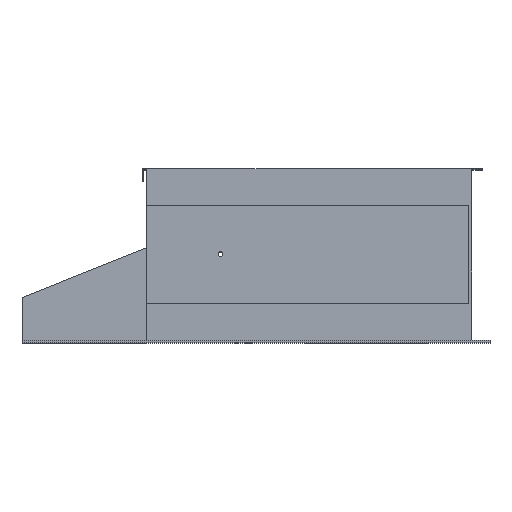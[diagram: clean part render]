
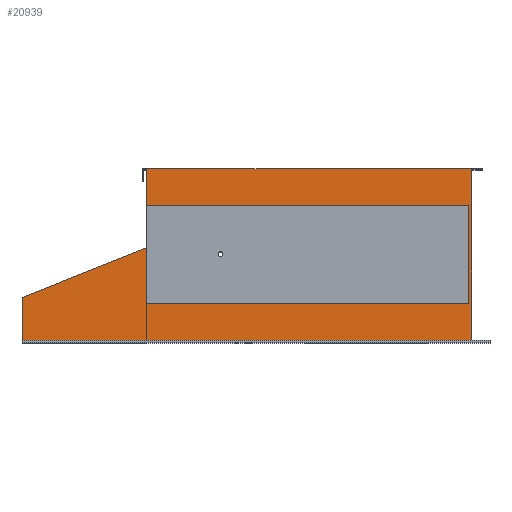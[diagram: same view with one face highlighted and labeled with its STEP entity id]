
A CAD part, top view. The second image highlights one B-rep face of the part: STEP entity #20939.
In plain terms, the highlighted planar face has unit normal (0, 0, 1).
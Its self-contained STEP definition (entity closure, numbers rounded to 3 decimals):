
#794 = LINE ( 'NONE', #46504, #36839 ) ;
#1184 = VERTEX_POINT ( 'NONE', #44992 ) ;
#1379 = VERTEX_POINT ( 'NONE', #24587 ) ;
#1419 = LINE ( 'NONE', #5107, #13570 ) ;
#1443 = CARTESIAN_POINT ( 'NONE',  ( 253., 79., 293. ) ) ;
#1843 = VECTOR ( 'NONE', #52644, 1000. ) ;
#1952 = VERTEX_POINT ( 'NONE', #38186 ) ;
#2223 = VECTOR ( 'NONE', #3060, 1000. ) ;
#2451 = CARTESIAN_POINT ( 'NONE',  ( 907., 279., 293. ) ) ;
#3060 = DIRECTION ( 'NONE',  ( 0., -1., 0. ) ) ;
#4261 = ORIENTED_EDGE ( 'NONE', *, *, #45153, .F. ) ;
#4314 = DIRECTION ( 'NONE',  ( 1., 0., 0. ) ) ;
#4740 = VERTEX_POINT ( 'NONE', #16648 ) ;
#5107 = CARTESIAN_POINT ( 'NONE',  ( 907., 79., 293. ) ) ;
#5360 = VERTEX_POINT ( 'NONE', #40984 ) ;
#5380 = CARTESIAN_POINT ( 'NONE',  ( 245., 353.5, 293. ) ) ;
#5392 = LINE ( 'NONE', #57517, #42651 ) ;
#5831 = DIRECTION ( 'NONE',  ( 1., 0., 0. ) ) ;
#6129 = EDGE_CURVE ( 'NONE', #1952, #50415, #10510, .T. ) ;
#6155 = EDGE_CURVE ( 'NONE', #1379, #34314, #21170, .T. ) ;
#7627 = VECTOR ( 'NONE', #48983, 1000. ) ;
#8324 = EDGE_CURVE ( 'NONE', #14761, #5360, #46264, .T. ) ;
#8522 = ORIENTED_EDGE ( 'NONE', *, *, #33453, .T. ) ;
#8892 = LINE ( 'NONE', #42566, #31394 ) ;
#9084 = VECTOR ( 'NONE', #12945, 1000. ) ;
#9164 = CARTESIAN_POINT ( 'NONE',  ( 935., 353.5, 293. ) ) ;
#9474 = LINE ( 'NONE', #50042, #36211 ) ;
#10430 = ORIENTED_EDGE ( 'NONE', *, *, #15248, .F. ) ;
#10510 = LINE ( 'NONE', #30768, #9084 ) ;
#11028 = VECTOR ( 'NONE', #28625, 1000. ) ;
#11845 = EDGE_CURVE ( 'NONE', #40019, #26633, #34894, .T. ) ;
#12088 = CARTESIAN_POINT ( 'NONE',  ( 935., 0., 293. ) ) ;
#12945 = DIRECTION ( 'NONE',  ( 0., 1., 0. ) ) ;
#13570 = VECTOR ( 'NONE', #4314, 1000. ) ;
#14074 = ORIENTED_EDGE ( 'NONE', *, *, #48839, .F. ) ;
#14400 = LINE ( 'NONE', #12088, #2223 ) ;
#14599 = ORIENTED_EDGE ( 'NONE', *, *, #54412, .F. ) ;
#14761 = VERTEX_POINT ( 'NONE', #39433 ) ;
#14820 = CARTESIAN_POINT ( 'NONE',  ( 913., 351.791, 293. ) ) ;
#15095 = ORIENTED_EDGE ( 'NONE', *, *, #29467, .T. ) ;
#15248 = EDGE_CURVE ( 'NONE', #55766, #26633, #14400, .T. ) ;
#15379 = ORIENTED_EDGE ( 'NONE', *, *, #22660, .T. ) ;
#16194 = AXIS2_PLACEMENT_3D ( 'NONE', #52864, #26375, #57181 ) ;
#16648 = CARTESIAN_POINT ( 'NONE',  ( 913., 5., 293. ) ) ;
#17391 = CARTESIAN_POINT ( 'NONE',  ( 913., 0., 293. ) ) ;
#18463 = CARTESIAN_POINT ( 'NONE',  ( 0., 92., 293. ) ) ;
#18552 = ORIENTED_EDGE ( 'NONE', *, *, #28933, .F. ) ;
#19469 = EDGE_CURVE ( 'NONE', #54797, #1184, #55170, .T. ) ;
#20237 = ORIENTED_EDGE ( 'NONE', *, *, #48069, .F. ) ;
#20401 = DIRECTION ( 'NONE',  ( -1., 0., 0. ) ) ;
#20831 = DIRECTION ( 'NONE',  ( -1., 0., 0. ) ) ;
#20939 = ADVANCED_FACE ( 'NONE', ( #35853 ), #21925, .T. ) ;
#21170 = LINE ( 'NONE', #35697, #7627 ) ;
#21317 = ORIENTED_EDGE ( 'NONE', *, *, #6129, .F. ) ;
#21925 = PLANE ( 'NONE',  #16194 ) ;
#22660 = EDGE_CURVE ( 'NONE', #34314, #30072, #27379, .T. ) ;
#24164 = CARTESIAN_POINT ( 'NONE',  ( 0., 351.791, 293. ) ) ;
#24396 = VECTOR ( 'NONE', #39270, 1000. ) ;
#24587 = CARTESIAN_POINT ( 'NONE',  ( 253., 193.2, 293. ) ) ;
#26375 = DIRECTION ( 'NONE',  ( 0., 0., 1. ) ) ;
#26633 = VERTEX_POINT ( 'NONE', #33820 ) ;
#26706 = DIRECTION ( 'NONE',  ( 0., -1., 0. ) ) ;
#27379 = LINE ( 'NONE', #48243, #1843 ) ;
#27569 = DIRECTION ( 'NONE',  ( 0., -1., 0. ) ) ;
#28367 = CARTESIAN_POINT ( 'NONE',  ( 0., 5., 293. ) ) ;
#28570 = LINE ( 'NONE', #17391, #24396 ) ;
#28625 = DIRECTION ( 'NONE',  ( 1., 0., 0. ) ) ;
#28933 = EDGE_CURVE ( 'NONE', #40019, #4740, #28570, .T. ) ;
#29233 = DIRECTION ( 'NONE',  ( 0., 1., 0. ) ) ;
#29406 = CARTESIAN_POINT ( 'NONE',  ( 0., 353.5, 293. ) ) ;
#29467 = EDGE_CURVE ( 'NONE', #5360, #46893, #5392, .T. ) ;
#30072 = VERTEX_POINT ( 'NONE', #52759 ) ;
#30768 = CARTESIAN_POINT ( 'NONE',  ( 245., 0., 293. ) ) ;
#30868 = DIRECTION ( 'NONE',  ( 1., 0., 0. ) ) ;
#31394 = VECTOR ( 'NONE', #20401, 1000. ) ;
#31886 = VERTEX_POINT ( 'NONE', #1443 ) ;
#32494 = CARTESIAN_POINT ( 'NONE',  ( 907., 79., 293. ) ) ;
#32689 = DIRECTION ( 'NONE',  ( 0., 1., 0. ) ) ;
#33177 = ORIENTED_EDGE ( 'NONE', *, *, #6155, .T. ) ;
#33453 = EDGE_CURVE ( 'NONE', #30072, #4740, #44513, .T. ) ;
#33820 = CARTESIAN_POINT ( 'NONE',  ( 935., 351.791, 293. ) ) ;
#33904 = DIRECTION ( 'NONE',  ( 1., 0., 0. ) ) ;
#34314 = VERTEX_POINT ( 'NONE', #18463 ) ;
#34894 = LINE ( 'NONE', #24164, #11028 ) ;
#35697 = CARTESIAN_POINT ( 'NONE',  ( -31.724, 79.31, 293. ) ) ;
#35853 = FACE_OUTER_BOUND ( 'NONE', #53315, .T. ) ;
#35878 = ORIENTED_EDGE ( 'NONE', *, *, #11845, .T. ) ;
#36211 = VECTOR ( 'NONE', #27569, 1000. ) ;
#36839 = VECTOR ( 'NONE', #29233, 1000. ) ;
#36973 = CARTESIAN_POINT ( 'NONE',  ( 253., 279., 293. ) ) ;
#37763 = VECTOR ( 'NONE', #20831, 1000. ) ;
#37848 = VECTOR ( 'NONE', #33904, 1000. ) ;
#37867 = ORIENTED_EDGE ( 'NONE', *, *, #51325, .F. ) ;
#38186 = CARTESIAN_POINT ( 'NONE',  ( 245., 328.5, 293. ) ) ;
#38747 = CARTESIAN_POINT ( 'NONE',  ( 907., 79., 293. ) ) ;
#39270 = DIRECTION ( 'NONE',  ( 0., -1., 0. ) ) ;
#39433 = CARTESIAN_POINT ( 'NONE',  ( 246.5, 351.791, 293. ) ) ;
#40019 = VERTEX_POINT ( 'NONE', #14820 ) ;
#40984 = CARTESIAN_POINT ( 'NONE',  ( 253., 351.791, 293. ) ) ;
#42566 = CARTESIAN_POINT ( 'NONE',  ( 0., 328.5, 293. ) ) ;
#42651 = VECTOR ( 'NONE', #26706, 1000. ) ;
#43519 = VECTOR ( 'NONE', #32689, 1000. ) ;
#44513 = LINE ( 'NONE', #28367, #54787 ) ;
#44880 = VECTOR ( 'NONE', #30868, 1000. ) ;
#44992 = CARTESIAN_POINT ( 'NONE',  ( 907., 279., 293. ) ) ;
#45153 = EDGE_CURVE ( 'NONE', #50415, #55766, #49557, .T. ) ;
#46264 = LINE ( 'NONE', #52714, #44880 ) ;
#46504 = CARTESIAN_POINT ( 'NONE',  ( 246.5, 0., 293. ) ) ;
#46893 = VERTEX_POINT ( 'NONE', #36973 ) ;
#47276 = VERTEX_POINT ( 'NONE', #57909 ) ;
#48069 = EDGE_CURVE ( 'NONE', #1184, #46893, #49466, .T. ) ;
#48243 = CARTESIAN_POINT ( 'NONE',  ( 0., 0., 293. ) ) ;
#48839 = EDGE_CURVE ( 'NONE', #47276, #1952, #8892, .T. ) ;
#48931 = ORIENTED_EDGE ( 'NONE', *, *, #8324, .T. ) ;
#48983 = DIRECTION ( 'NONE',  ( -0.928, -0.371, 0. ) ) ;
#49466 = LINE ( 'NONE', #2451, #37763 ) ;
#49557 = LINE ( 'NONE', #29406, #37848 ) ;
#50042 = CARTESIAN_POINT ( 'NONE',  ( 253., 79., 293. ) ) ;
#50415 = VERTEX_POINT ( 'NONE', #5380 ) ;
#51024 = ORIENTED_EDGE ( 'NONE', *, *, #52857, .T. ) ;
#51325 = EDGE_CURVE ( 'NONE', #1379, #31886, #9474, .T. ) ;
#51853 = ORIENTED_EDGE ( 'NONE', *, *, #19469, .F. ) ;
#52644 = DIRECTION ( 'NONE',  ( 0., -1., 0. ) ) ;
#52714 = CARTESIAN_POINT ( 'NONE',  ( 0., 351.791, 293. ) ) ;
#52759 = CARTESIAN_POINT ( 'NONE',  ( 0., 5., 293. ) ) ;
#52857 = EDGE_CURVE ( 'NONE', #47276, #14761, #794, .T. ) ;
#52864 = CARTESIAN_POINT ( 'NONE',  ( 0., 0., 293. ) ) ;
#53315 = EDGE_LOOP ( 'NONE', ( #15379, #8522, #18552, #35878, #10430, #4261, #21317, #14074, #51024, #48931, #15095, #20237, #51853, #14599, #37867, #33177 ) ) ;
#54412 = EDGE_CURVE ( 'NONE', #31886, #54797, #1419, .T. ) ;
#54787 = VECTOR ( 'NONE', #5831, 1000. ) ;
#54797 = VERTEX_POINT ( 'NONE', #38747 ) ;
#55170 = LINE ( 'NONE', #32494, #43519 ) ;
#55766 = VERTEX_POINT ( 'NONE', #9164 ) ;
#57181 = DIRECTION ( 'NONE',  ( 1., 0., 0. ) ) ;
#57517 = CARTESIAN_POINT ( 'NONE',  ( 253., 0., 293. ) ) ;
#57909 = CARTESIAN_POINT ( 'NONE',  ( 246.5, 328.5, 293. ) ) ;
